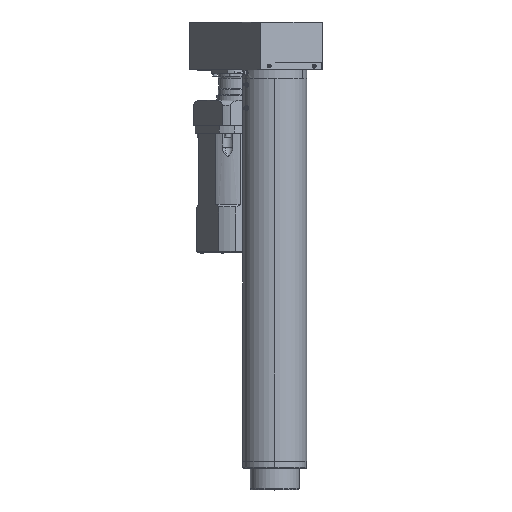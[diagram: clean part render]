
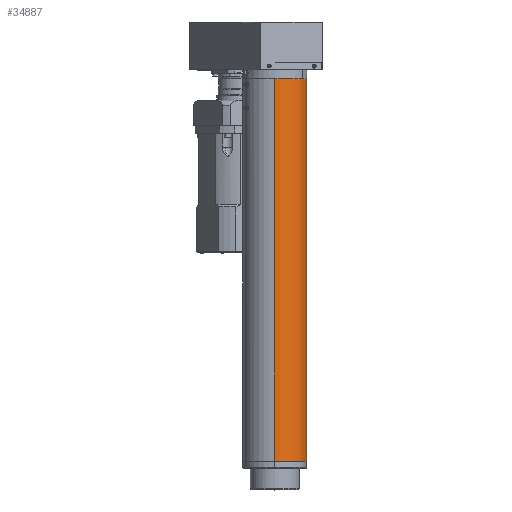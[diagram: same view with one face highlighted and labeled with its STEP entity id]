
A CAD part, top view. The second image highlights one B-rep face of the part: STEP entity #34887.
In plain terms, the highlighted cylindrical face has radius 89 mm (diameter 178 mm), a partial arc.
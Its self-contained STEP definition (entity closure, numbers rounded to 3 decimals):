
#946 = VERTEX_POINT ( 'NONE', #47811 ) ;
#3335 = AXIS2_PLACEMENT_3D ( 'NONE', #12725, #42670, #29770 ) ;
#3970 = CYLINDRICAL_SURFACE ( 'NONE', #3335, 89. ) ;
#6595 = EDGE_CURVE ( 'NONE', #40976, #17744, #44486, .T. ) ;
#7346 = ORIENTED_EDGE ( 'NONE', *, *, #29170, .F. ) ;
#8218 = EDGE_CURVE ( 'NONE', #18379, #17744, #36763, .T. ) ;
#9586 = VECTOR ( 'NONE', #28646, 1000. ) ;
#10044 = LINE ( 'NONE', #27102, #42003 ) ;
#11893 = CARTESIAN_POINT ( 'NONE',  ( 0., 0., 89. ) ) ;
#12086 = DIRECTION ( 'NONE',  ( 0., 0., -1. ) ) ;
#12725 = CARTESIAN_POINT ( 'NONE',  ( 0., 0., 0. ) ) ;
#16371 = DIRECTION ( 'NONE',  ( 0., -1., 0. ) ) ;
#17744 = VERTEX_POINT ( 'NONE', #20780 ) ;
#18379 = VERTEX_POINT ( 'NONE', #20583 ) ;
#20583 = CARTESIAN_POINT ( 'NONE',  ( 0., 1080., 89. ) ) ;
#20780 = CARTESIAN_POINT ( 'NONE',  ( 0., 20., 89. ) ) ;
#21975 = ORIENTED_EDGE ( 'NONE', *, *, #29827, .T. ) ;
#23194 = CIRCLE ( 'NONE', #51816, 89. ) ;
#27102 = CARTESIAN_POINT ( 'NONE',  ( 0., 0., -89. ) ) ;
#28646 = DIRECTION ( 'NONE',  ( 0., -1., 0. ) ) ;
#29170 = EDGE_CURVE ( 'NONE', #946, #40976, #10044, .T. ) ;
#29770 = DIRECTION ( 'NONE',  ( 0., 0., -1. ) ) ;
#29827 = EDGE_CURVE ( 'NONE', #946, #18379, #23194, .T. ) ;
#33320 = CARTESIAN_POINT ( 'NONE',  ( 0., 1080., 0. ) ) ;
#33431 = DIRECTION ( 'NONE',  ( 0., 0., -1. ) ) ;
#34887 = ADVANCED_FACE ( 'NONE', ( #42096 ), #3970, .T. ) ;
#36763 = LINE ( 'NONE', #11893, #9586 ) ;
#37242 = CARTESIAN_POINT ( 'NONE',  ( 0., 20., -89. ) ) ;
#39130 = AXIS2_PLACEMENT_3D ( 'NONE', #54677, #16371, #33431 ) ;
#40976 = VERTEX_POINT ( 'NONE', #37242 ) ;
#42003 = VECTOR ( 'NONE', #44183, 1000. ) ;
#42096 = FACE_OUTER_BOUND ( 'NONE', #50581, .T. ) ;
#42127 = ORIENTED_EDGE ( 'NONE', *, *, #6595, .F. ) ;
#42670 = DIRECTION ( 'NONE',  ( 0., -1., 0. ) ) ;
#44183 = DIRECTION ( 'NONE',  ( 0., -1., 0. ) ) ;
#44486 = CIRCLE ( 'NONE', #39130, 89. ) ;
#47782 = ORIENTED_EDGE ( 'NONE', *, *, #8218, .T. ) ;
#47811 = CARTESIAN_POINT ( 'NONE',  ( 0., 1080., -89. ) ) ;
#50410 = DIRECTION ( 'NONE',  ( 0., -1., 0. ) ) ;
#50581 = EDGE_LOOP ( 'NONE', ( #21975, #47782, #42127, #7346 ) ) ;
#51816 = AXIS2_PLACEMENT_3D ( 'NONE', #33320, #50410, #12086 ) ;
#54677 = CARTESIAN_POINT ( 'NONE',  ( 0., 20., 0. ) ) ;
